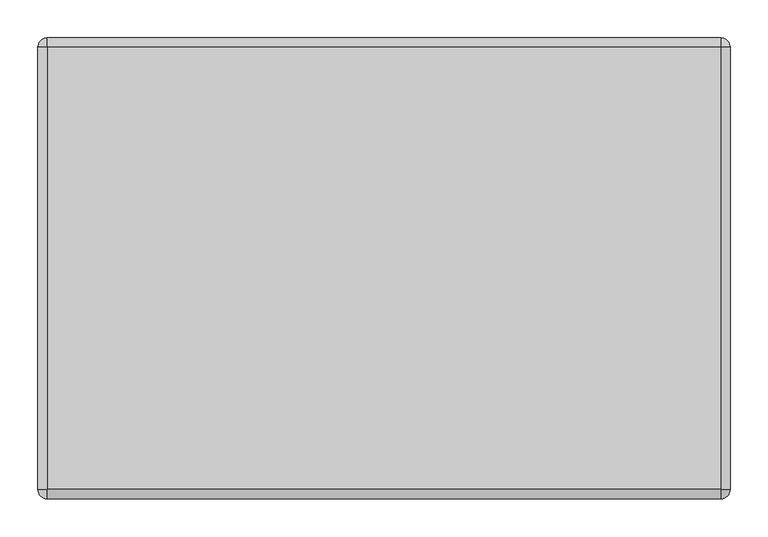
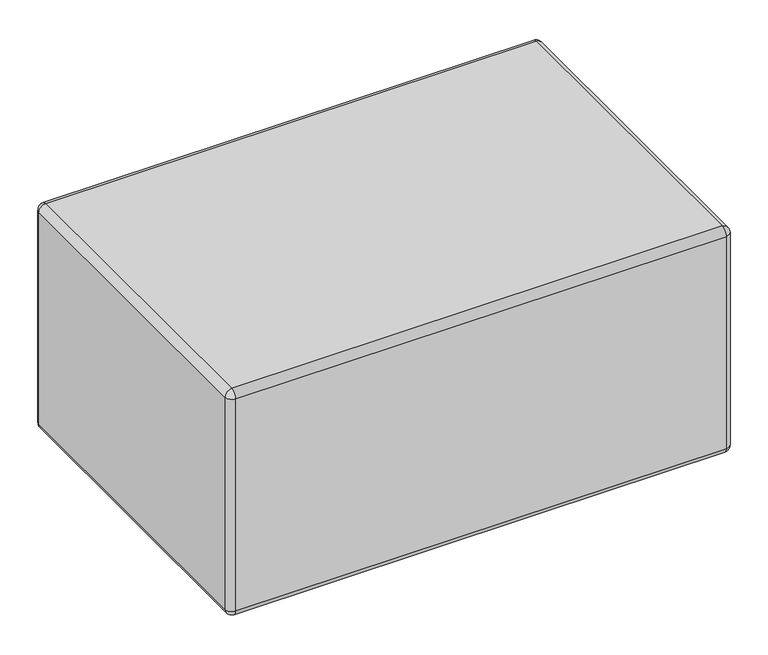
"""IFC4 building model written with IfcOpenShell, lengths in millimetres: furniture geometry."""

from ifc_helpers import new_model, si_unit, point, frame, origin, place, context, project, spatial, circle_curve, ellipse_curve, trimmed, source, transform, mapped, element, save
from ifc_brep_helpers import plane_surface, cylinder_surface, revolved_surface, advanced_brep


def furniture_611754e7(model_context):
    return source(origin(), model_context, "Body", "AdvancedBrep", [
        advanced_brep(
        [(-457.2, 292.1, 444.5), (-457.2, -292.1, 444.5), (-444.5, -292.1, 457.2), (-444.5, 292.1, 457.2), (-457.2, 292.1, 38.1), (-457.2, -292.1, 38.1), (-444.5, 292.1, 25.4), (-444.5, -292.1, 25.4), (-444.5, -304.8, 444.5), (444.5, -304.8, 444.5), (444.5, -292.1, 457.2), (-444.5, -304.8, 38.1), (444.5, -304.8, 38.1), (444.5, -292.1, 25.4), (444.5, 292.1, 457.2), (444.5, 292.1, 25.4), (444.5, 304.8, 444.5), (-444.5, 304.8, 444.5), (444.5, 304.8, 38.1), (-444.5, 304.8, 38.1), (457.2, -292.1, 444.5), (457.2, 292.1, 444.5), (457.2, -292.1, 38.1), (457.2, 292.1, 38.1)],
        [
            (0, 1),
            (1, 2, circle_curve(frame((-444.5, -292.1, 444.5), z_axis=(0.0, 1.0, 0.0), x_axis=(-1.0, 0.0, 0.0)), 12.7)),
            (2, 3),
            (3, 0, circle_curve(frame((-444.5, 292.1, 444.5), z_axis=(0.0, -1.0, 0.0), x_axis=(-1.0, 0.0, 0.0)), 12.7)),
            (0, 4),
            (4, 5),
            (5, 1),
            (4, 6, circle_curve(frame((-444.5, 292.1, 38.1), z_axis=(0.0, -1.0, 0.0), x_axis=(-1.0, 0.0, 0.0)), 12.7)),
            (6, 7),
            (7, 5, circle_curve(frame((-444.5, -292.1, 38.1), z_axis=(0.0, 1.0, 0.0), x_axis=(-1.0, 0.0, 0.0)), 12.7)),
            (8, 9),
            (9, 10, circle_curve(frame((444.5, -292.1, 444.5), z_axis=(-1.0, 0.0, 0.0), x_axis=(0.0, 1.0, 0.0)), 12.7)),
            (10, 2),
            (2, 8, circle_curve(frame((-444.5, -292.1, 444.5), z_axis=(1.0, 0.0, 0.0), x_axis=(0.0, 1.0, 0.0)), 12.7)),
            (8, 11),
            (11, 12),
            (12, 9),
            (11, 7, circle_curve(frame((-444.5, -292.1, 38.1), z_axis=(1.0, 0.0, 0.0), x_axis=(0.0, 1.0, 0.0)), 12.7)),
            (7, 13),
            (13, 12, circle_curve(frame((444.5, -292.1, 38.1), z_axis=(-1.0, 0.0, 0.0), x_axis=(0.0, 1.0, 0.0)), 12.7)),
            (10, 14),
            (14, 3),
            (6, 15),
            (15, 13),
            (16, 17),
            (17, 3, circle_curve(frame((-444.5, 292.1, 444.5), z_axis=(1.0, 0.0, 0.0), x_axis=(0.0, 1.0, 0.0)), 12.7)),
            (14, 16, circle_curve(frame((444.5, 292.1, 444.5), z_axis=(-1.0, 0.0, 0.0), x_axis=(0.0, 1.0, 0.0)), 12.7)),
            (16, 18),
            (18, 19),
            (19, 17),
            (18, 15, circle_curve(frame((444.5, 292.1, 38.1), z_axis=(-1.0, 0.0, 0.0), x_axis=(0.0, 1.0, 0.0)), 12.7)),
            (6, 19, circle_curve(frame((-444.5, 292.1, 38.1), z_axis=(1.0, 0.0, 0.0), x_axis=(0.0, 1.0, 0.0)), 12.7)),
            (20, 21),
            (21, 14, circle_curve(frame((444.5, 292.1, 444.5), z_axis=(0.0, -1.0, 0.0), x_axis=(-1.0, 0.0, 0.0)), 12.7)),
            (10, 20, circle_curve(frame((444.5, -292.1, 444.5), z_axis=(0.0, 1.0, 0.0), x_axis=(-1.0, 0.0, 0.0)), 12.7)),
            (20, 22),
            (22, 23),
            (23, 21),
            (22, 13, circle_curve(frame((444.5, -292.1, 38.1), z_axis=(0.0, 1.0, 0.0), x_axis=(-1.0, 0.0, 0.0)), 12.7)),
            (15, 23, circle_curve(frame((444.5, 292.1, 38.1), z_axis=(0.0, -1.0, 0.0), x_axis=(-1.0, 0.0, 0.0)), 12.7)),
            (19, 4, circle_curve(frame((-444.5, 292.1, 38.1), z_axis=(0.0, 0.0, 1.0), x_axis=(-1.0, 0.0, 0.0)), 12.7)),
            (0, 17, circle_curve(frame((-444.5, 292.1, 444.5), z_axis=(0.0, 0.0, -1.0), x_axis=(-1.0, 0.0, 0.0)), 12.7)),
            (8, 1, circle_curve(frame((-444.5, -292.1, 444.5), z_axis=(0.0, 0.0, -1.0), x_axis=(-1.0, 0.0, 0.0)), 12.7)),
            (5, 11, circle_curve(frame((-444.5, -292.1, 38.1), z_axis=(0.0, 0.0, 1.0), x_axis=(-1.0, 0.0, 0.0)), 12.7)),
            (12, 22, circle_curve(frame((444.5, -292.1, 38.1), z_axis=(0.0, 0.0, 1.0), x_axis=(1.0, 0.0, 0.0)), 12.7)),
            (20, 9, circle_curve(frame((444.5, -292.1, 444.5), z_axis=(0.0, 0.0, -1.0), x_axis=(1.0, 0.0, 0.0)), 12.7)),
            (16, 21, circle_curve(frame((444.5, 292.1, 444.5), z_axis=(0.0, 0.0, -1.0), x_axis=(1.0, 0.0, 0.0)), 12.7)),
            (23, 18, circle_curve(frame((444.5, 292.1, 38.1), z_axis=(0.0, 0.0, 1.0), x_axis=(1.0, 0.0, 0.0)), 12.7)),
        ],
        [
            cylinder_surface(frame((-444.5, -292.1, 444.5), z_axis=(0.0, -1.0, 0.0), x_axis=(-1.0, 0.0, 0.0)), 12.7),
            plane_surface(frame((-457.2, -292.1, 444.5), z_axis=(-1.0, 0.0, 0.0), x_axis=(0.0, 1.0, 0.0))),
            cylinder_surface(frame((-444.5, -292.1, 38.1), z_axis=(0.0, -1.0, 0.0), x_axis=(-1.0, 0.0, 0.0)), 12.7),
            cylinder_surface(frame((-444.5, -292.1, 444.5), z_axis=(-1.0, 0.0, 0.0), x_axis=(0.0, 1.0, 0.0)), 12.7),
            plane_surface(frame((-444.5, -304.8, 38.1), z_axis=(0.0, -1.0, 0.0), x_axis=(1.0, 0.0, 0.0))),
            cylinder_surface(frame((-444.5, -292.1, 38.1), z_axis=(-1.0, 0.0, 0.0), x_axis=(0.0, 1.0, 0.0)), 12.7),
            plane_surface(frame((-444.5, 292.1, 457.2), z_axis=(0.0, 0.0, 1.0), x_axis=(-1.0, 0.0, 0.0))),
            plane_surface(frame((-444.5, 292.1, 25.4), z_axis=(0.0, 0.0, -1.0), x_axis=(1.0, 0.0, 0.0))),
            cylinder_surface(frame((-444.5, 292.1, 444.5), z_axis=(-1.0, 0.0, 0.0), x_axis=(0.0, 1.0, 0.0)), 12.7),
            plane_surface(frame((-444.5, 304.8, 444.5), z_axis=(0.0, 1.0, 0.0), x_axis=(1.0, 0.0, 0.0))),
            cylinder_surface(frame((-444.5, 292.1, 38.1), z_axis=(-1.0, 0.0, 0.0), x_axis=(0.0, 1.0, 0.0)), 12.7),
            cylinder_surface(frame((444.5, -292.1, 444.5), z_axis=(0.0, -1.0, 0.0), x_axis=(-1.0, 0.0, 0.0)), 12.7),
            plane_surface(frame((457.2, -292.1, 38.1), z_axis=(1.0, 0.0, 0.0), x_axis=(0.0, 1.0, 0.0))),
            cylinder_surface(frame((444.5, -292.1, 38.1), z_axis=(0.0, -1.0, 0.0), x_axis=(-1.0, 0.0, 0.0)), 12.7),
            cylinder_surface(frame((-444.5, 292.1, 457.2), z_axis=(0.0, 0.0, 1.0), x_axis=(-1.0, 0.0, 0.0)), 12.7),
            revolved_surface(trimmed(ellipse_curve(frame((-444.5, 292.1, 38.1), z_axis=(0.0, 1.0, 0.0), x_axis=(0.0, 0.0, 1.0)), 12.7, 12.7), [point((-444.5, 292.1, 25.4))], [point((-457.2, 292.1, 38.1))], True, "CARTESIAN"), (-444.5, 292.1, 457.2), (0.0, 0.0, 1.0)),
            revolved_surface(trimmed(ellipse_curve(frame((-444.5, 292.1, 444.5), z_axis=(0.0, 1.0, 0.0), x_axis=(0.0, 0.0, 1.0)), 12.7, 12.7), [point((-457.2, 292.1, 444.5))], [point((-444.5, 292.1, 457.2))], True, "CARTESIAN"), (-444.5, 292.1, 457.2), (0.0, 0.0, 1.0)),
            cylinder_surface(frame((-444.5, -292.1, 306.9189642), z_axis=(0.0, 0.0, -1.0), x_axis=(-1.0, 0.0, 0.0)), 12.7),
            revolved_surface(trimmed(ellipse_curve(frame((-444.5, -292.1, 444.5), z_axis=(0.0, -1.0, 0.0), x_axis=(1.0, 0.0, 0.0)), 12.7, 12.7), [point((-444.5, -292.1, 457.2))], [point((-457.2, -292.1, 444.5))], True, "CARTESIAN"), (-444.5, -292.1, 306.9189642), (0.0, 0.0, -1.0)),
            revolved_surface(trimmed(ellipse_curve(frame((-444.5, -292.1, 38.1), z_axis=(0.0, -1.0, 0.0), x_axis=(1.0, 0.0, 0.0)), 12.7, 12.7), [point((-457.2, -292.1, 38.1))], [point((-444.5, -292.1, 25.4))], True, "CARTESIAN"), (-444.5, -292.1, 306.9189642), (0.0, 0.0, -1.0)),
            cylinder_surface(frame((444.5, -292.1, 457.2), z_axis=(0.0, 0.0, 1.0), x_axis=(1.0, 0.0, 0.0)), 12.7),
            revolved_surface(trimmed(ellipse_curve(frame((444.5, -292.1, 38.1), z_axis=(0.0, -1.0, 0.0), x_axis=(1.0, 0.0, 0.0)), 12.7, 12.7), [point((444.5, -292.1, 25.4))], [point((457.2, -292.1, 38.1))], True, "CARTESIAN"), (444.5, -292.1, 457.2), (0.0, 0.0, 1.0)),
            revolved_surface(trimmed(ellipse_curve(frame((444.5, -292.1, 444.5), z_axis=(0.0, -1.0, 0.0), x_axis=(1.0, 0.0, 0.0)), 12.7, 12.7), [point((457.2, -292.1, 444.5))], [point((444.5, -292.1, 457.2))], True, "CARTESIAN"), (444.5, -292.1, 457.2), (0.0, 0.0, 1.0)),
            cylinder_surface(frame((444.5, 292.1, 306.9189642), z_axis=(0.0, 0.0, -1.0), x_axis=(1.0, 0.0, 0.0)), 12.7),
            revolved_surface(trimmed(ellipse_curve(frame((444.5, 292.1, 444.5), z_axis=(0.0, 1.0, 0.0), x_axis=(0.0, 0.0, 1.0)), 12.7, 12.7), [point((444.5, 292.1, 457.2))], [point((457.2, 292.1, 444.5))], True, "CARTESIAN"), (444.5, 292.1, 306.9189642), (0.0, 0.0, -1.0)),
            revolved_surface(trimmed(ellipse_curve(frame((444.5, 292.1, 38.1), z_axis=(0.0, 1.0, 0.0), x_axis=(0.0, 0.0, 1.0)), 12.7, 12.7), [point((457.2, 292.1, 38.1))], [point((444.5, 292.1, 25.4))], True, "CARTESIAN"), (444.5, 292.1, 306.9189642), (0.0, 0.0, -1.0)),
        ],
        [
            (0, [[1, 2, 3, 4]]),
            (1, [[-1, 5, 6, 7]]),
            (2, [[-6, 8, 9, 10]]),
            (3, [[11, 12, 13, 14]]),
            (4, [[-11, 15, 16, 17]]),
            (5, [[-16, 18, 19, 20]]),
            (6, [[-3, -13, 21, 22]]),
            (7, [[-9, 23, 24, -19]]),
            (8, [[25, 26, -22, 27]]),
            (9, [[-25, 28, 29, 30]]),
            (10, [[-29, 31, -23, 32]]),
            (11, [[33, 34, -21, 35]]),
            (12, [[-33, 36, 37, 38]]),
            (13, [[-37, 39, -24, 40]]),
            (14, [[41, -5, 42, -30]]),
            (15, [[-41, -32, -8]]),
            (16, [[-42, -4, -26]]),
            (17, [[43, -7, 44, -15]]),
            (18, [[-43, -14, -2]]),
            (19, [[-44, -10, -18]]),
            (20, [[45, -36, 46, -17]]),
            (21, [[-45, -20, -39]]),
            (22, [[-46, -35, -12]]),
            (23, [[47, -38, 48, -28]]),
            (24, [[-47, -27, -34]]),
            (25, [[-48, -40, -31]]),
        ],
    ),
    ])


if __name__ == "__main__":
    model = new_model("IFC4")
    model_context = context("Model", 3, world=origin())
    ifc_project = project(units=[si_unit("LENGTHUNIT", "METRE", prefix="MILLI")], contexts=[model_context])
    site = spatial("IfcSite", under=ifc_project)
    building = spatial("IfcBuilding", under=site)
    placement = place(None, origin())
    furniture_shape = furniture_611754e7(model_context)
    element("IfcFurniture", 1, at=placement, inside=building, context=model_context, shape_type="MappedRepresentation", body=[
        mapped(furniture_shape, transform((0.0, 0.0, 0.0), x_axis=(1.0, 0.0, 0.0), y_axis=(0.0, 1.0, 0.0), z_axis=(0.0, 0.0, 1.0))),
    ])
    save(model, "model.ifc")
